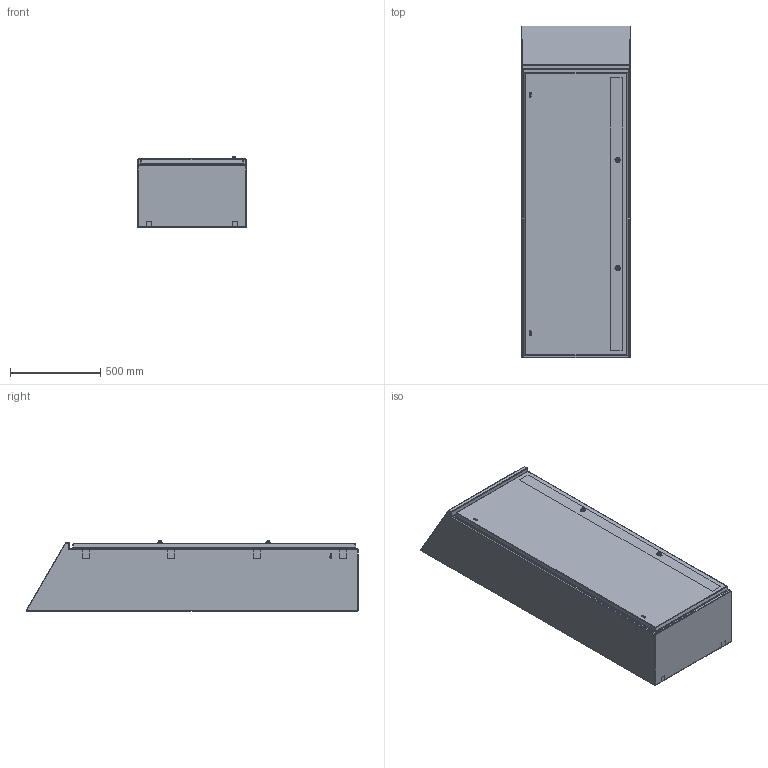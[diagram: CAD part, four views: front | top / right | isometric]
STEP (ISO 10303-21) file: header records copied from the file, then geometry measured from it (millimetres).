
FILE_DESCRIPTION (( 'STEP AP203' ), '1' );
FILE_NAME ('SITO-QSH616.STEP', '2021-05-06T09:06:38', ( '' ), ( '' ), 'SwSTEP 2.0', 'SolidWorks 2020', '' );
FILE_SCHEMA (( 'CONFIG_CONTROL_DESIGN' ));
Length unit declared in the file: millimetre
Products named in the file (22): PRM615TL316; CEPOM(CORPO); DMFD08Z; ADMT_ADMT; SG460-32-HD_Posizione 3; INGOMBRO_LEVE; RP0612I; CERNIERA; SITO-FASCIAME QSH616_QSH45; DM06I; Scarpetta H.32 SG460-SD_1_Configurazione 2; SITO-QSH616; SVPIQSH616A; 1000-S1491; SG460-32-HD_1_Posizione 4; PIQSH616A; GHIERA SG CASSETTE; SITO-PORTA QSH616; Scarpetta H.32 SG460-SD_Configurazione 2; SITO-ASSIEME PORTA QSH616
Assembly tree (40 placements, depth 4):
  SITO-QSH616
    SITO-FASCIAME QSH616_QSH45
    PIQSH616A
      SVPIQSH616A
    SITO-ASSIEME PORTA QSH616
      SITO-PORTA QSH616
      PRM615TL316  x2
      ADMT_ADMT  x2
      RP0612I  x2
      DM06I  x2
      SG460-32-HD_Posizione 3
        1000-S1491
        GHIERA SG CASSETTE
        Scarpetta H.32 SG460-SD_Configurazione 2
        CEPOM(CORPO)
      SG460-32-HD_Posizione 3
        1000-S1491
        GHIERA SG CASSETTE
        Scarpetta H.32 SG460-SD_Configurazione 2
        CEPOM(CORPO)
      SG460-32-HD_1_Posizione 4
        Scarpetta H.32 SG460-SD_1_Configurazione 2
        CEPOM(CORPO)
      SG460-32-HD_1_Posizione 4
        Scarpetta H.32 SG460-SD_1_Configurazione 2
        CEPOM(CORPO)
    DMFD08Z  x4
    ADMT_ADMT  x2
    INGOMBRO_LEVE
    CERNIERA  x4
Bounding box: 600 x 1841 x 392.04 mm (x, y, z)
Volume: 12545831.5 mm3; surface area: 10470524.8 mm2
Topology: 42 solids, 42 shells, 2000 faces, 4931 edges, 3061 vertices
Faces by surface type: plane 1046, cylinder 642, bspline 134, cone 132, sphere 28, torus 18
Entity records: 39136 total; most frequent: CARTESIAN_POINT 9889, DIRECTION 5538, ORIENTED_EDGE 5506, EDGE_CURVE 2753, AXIS2_PLACEMENT_3D 1929, VERTEX_POINT 1708, LINE 1680, VECTOR 1680
